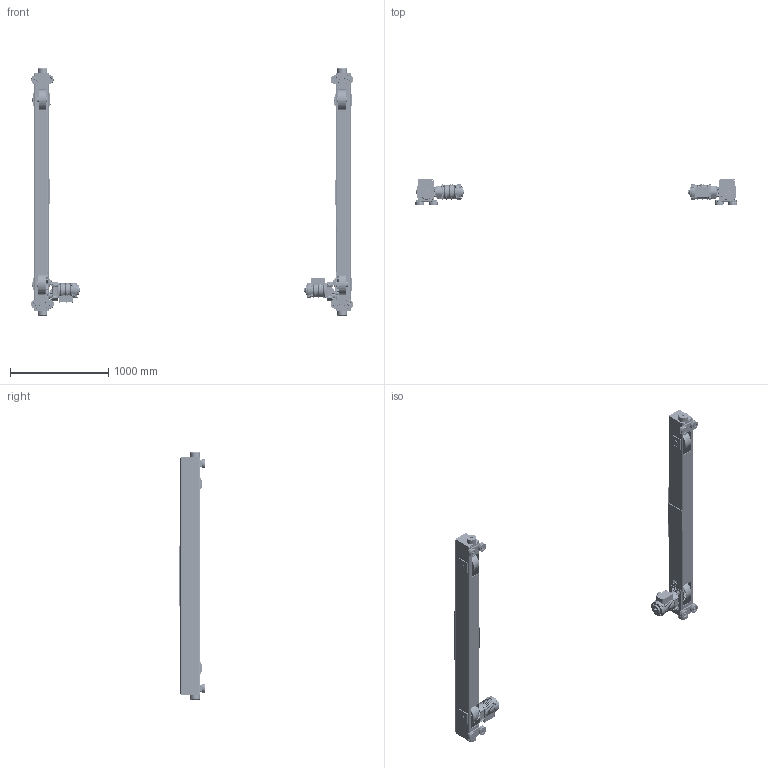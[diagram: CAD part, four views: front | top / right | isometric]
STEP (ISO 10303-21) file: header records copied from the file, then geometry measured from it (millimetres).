
FILE_DESCRIPTION (( 'STEP AP214' ), '1' );
FILE_NAME ('TMH-3-0560.STEP', '2026-08-12T19:50:32', ( '' ), ( '' ), 'SwSTEP 2.0', 'SolidWorks 2026', '' );
FILE_SCHEMA (( 'AUTOMOTIVE_DESIGN' ));
Length unit declared in the file: inch
Products named in the file (71): 9091250_9091250; G1JE075S9604; G1JE075S9603; 9012514_9012514; 9000709; 6240817X_6240817A; 9012707_9012707; N6QO4501101; G1JE040S9701; G1JE040S9503; 9093101_9093101; 6244510; 62435; 9047252_9047252; 62588; G1JE040S9303; 62434; MS555010_MS555010; 9000605; 62587; 9093327_9093327; G1JM075T_NORMAL; 6244519; 9091272_9091272; G1JM075T_ROTATED 180 DEGREES; G1JE075S9609; 6244501; G1JE040S9401; G1JE040S9301; 62437_0550-0560 - 25# RAIL; 6240805X_6240805A; 9091273_9091273; 6240818; N6QO450E9102; G1JE040S9707; 6244502; 9798526_9798526; 9012711_9012711; T800-600-004_94.4375; G1JE075S9610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
Assembly tree (250 placements, depth 4):
  TMH-3-0560
    62436_0550-0560 - 25# RAIL
      62434
        T800-600-004_94.4375
        6240820
        6240818
        6244510
        6244510
        6244510
      6244509  x2
      6244508
      6240817X_6240817A
        6240805X_6240805A
        6232305  x2
      6240817X_6240817B
        6240805X_6240805B
        6232305  x2
      6244519
      6244501
      6244502
      6244503
    62437_0550-0560 - 25# RAIL
      62435
        T800-600-004_94.4375
        6240820
        6240818
        6244510
        6244510
        6244510
      6244509  x2
      6244508
      6240817X_6240817A  x2
        6240805X_6240805A
        6232305
      6244519
      6244501
      6244502
      6244503
    N6Q03101108  x8
      N6Q0310E9108
      9047252_9047252
      9000605
    6232404  x8
    9047125_B27.7M - 3AM1-23  x8
    N6QO375207  x4
    9012514_9012514  x4
    9012711_9012711  x20
    9093101_9093101  x4
    6244517  x4
    6244513  x4
    9093327_9093327  x8
    N6QO4501101  x2
      N6QO450E91013
      N6QO450E91311
      9000709
      9091272_9091272
      9012711_9012711
    N6QO4501102  x2
      N6QO450E9102
      9000709
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Bounding box: 3278.67 x 261.94 x 2514.76 mm (x, y, z)
Volume: 45337821.4 mm3; surface area: 10937470.8 mm2
Topology: 270 solids, 334 shells, 15320 faces, 39182 edges, 25118 vertices
Faces by surface type: plane 7982, cylinder 3668, bspline 1754, torus 902, cone 838, sphere 176
Entity records: 179137 total; most frequent: CARTESIAN_POINT 75468, ORIENTED_EDGE 21164, DIRECTION 19149, EDGE_CURVE 10586, AXIS2_PLACEMENT_3D 7223, VERTEX_POINT 6759, VECTOR 4703, LINE 4703
